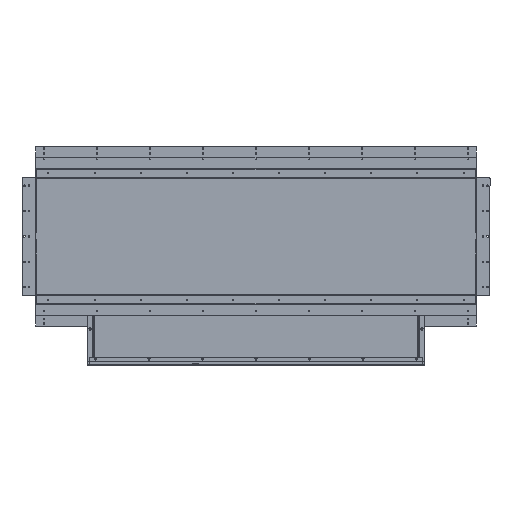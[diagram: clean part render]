
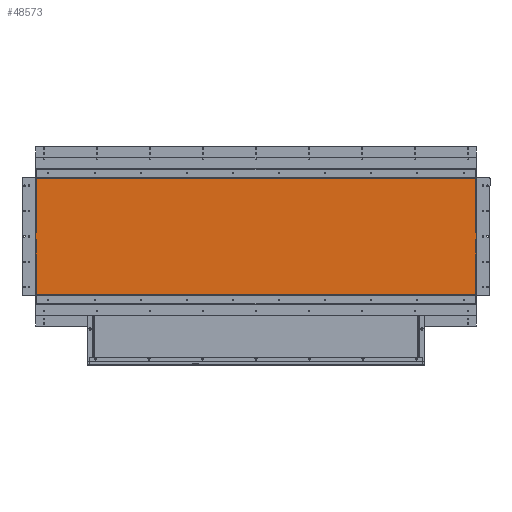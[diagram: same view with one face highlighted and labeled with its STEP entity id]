
A CAD part, front view. The second image highlights one B-rep face of the part: STEP entity #48573.
In plain terms, the highlighted planar face has unit normal (0, -1, 0) as drawn and (0, 0, -1) by its records, which use the part's own axes.
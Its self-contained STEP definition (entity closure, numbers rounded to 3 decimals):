
#477 = DIRECTION ( 'NONE',  ( 0., -1., 0. ) ) ;
#789 = VECTOR ( 'NONE', #4418, 1000. ) ;
#1685 = CARTESIAN_POINT ( 'NONE',  ( -953.5, -253., -1. ) ) ;
#2329 = AXIS2_PLACEMENT_3D ( 'NONE', #72704, #81724, #63123 ) ;
#4388 = CIRCLE ( 'NONE', #90729, 1. ) ;
#4418 = DIRECTION ( 'NONE',  ( 0., 1., 0. ) ) ;
#4594 = VECTOR ( 'NONE', #12122, 1000. ) ;
#5905 = VERTEX_POINT ( 'NONE', #93045 ) ;
#6516 = VERTEX_POINT ( 'NONE', #6585 ) ;
#6585 = CARTESIAN_POINT ( 'NONE',  ( -953.5, -15., -1. ) ) ;
#7040 = EDGE_CURVE ( 'NONE', #103428, #35055, #70513, .T. ) ;
#8951 = VECTOR ( 'NONE', #25024, 1000. ) ;
#9022 = DIRECTION ( 'NONE',  ( -1., 0., 0. ) ) ;
#10423 = EDGE_CURVE ( 'NONE', #52905, #52478, #28560, .T. ) ;
#10498 = CARTESIAN_POINT ( 'NONE',  ( 955., 15., -1. ) ) ;
#10810 = LINE ( 'NONE', #47451, #8951 ) ;
#10869 = VECTOR ( 'NONE', #11715, 1000. ) ;
#11715 = DIRECTION ( 'NONE',  ( 0., 1., 0. ) ) ;
#12122 = DIRECTION ( 'NONE',  ( 0., -1., 0. ) ) ;
#12279 = DIRECTION ( 'NONE',  ( 1., 0., 0. ) ) ;
#12759 = CARTESIAN_POINT ( 'NONE',  ( 953.5, -251., -1. ) ) ;
#13597 = ORIENTED_EDGE ( 'NONE', *, *, #69742, .F. ) ;
#14152 = CARTESIAN_POINT ( 'NONE',  ( 955., -15., -1. ) ) ;
#15907 = LINE ( 'NONE', #51974, #87766 ) ;
#18861 = CARTESIAN_POINT ( 'NONE',  ( -955., -14., -1. ) ) ;
#18862 = DIRECTION ( 'NONE',  ( -1., 0., 0. ) ) ;
#19345 = ORIENTED_EDGE ( 'NONE', *, *, #32385, .F. ) ;
#20525 = CARTESIAN_POINT ( 'NONE',  ( 953.5, -251., -1. ) ) ;
#20757 = VERTEX_POINT ( 'NONE', #68206 ) ;
#21706 = DIRECTION ( 'NONE',  ( 0., 1., 0. ) ) ;
#22835 = VERTEX_POINT ( 'NONE', #112513 ) ;
#23045 = LINE ( 'NONE', #97511, #71766 ) ;
#25024 = DIRECTION ( 'NONE',  ( -1., 0., 0. ) ) ;
#25342 = ORIENTED_EDGE ( 'NONE', *, *, #34005, .F. ) ;
#26035 = EDGE_CURVE ( 'NONE', #5905, #20757, #82737, .T. ) ;
#26119 = CARTESIAN_POINT ( 'NONE',  ( 955., -15., -1. ) ) ;
#26403 = EDGE_CURVE ( 'NONE', #45412, #63760, #76921, .T. ) ;
#27674 = CARTESIAN_POINT ( 'NONE',  ( 953.5, 251., -1. ) ) ;
#28560 = LINE ( 'NONE', #94003, #10869 ) ;
#28852 = CARTESIAN_POINT ( 'NONE',  ( 955., 15., -1. ) ) ;
#29713 = CARTESIAN_POINT ( 'NONE',  ( 956., 14., -1. ) ) ;
#29739 = CARTESIAN_POINT ( 'NONE',  ( 953.5, -15., -1. ) ) ;
#31439 = EDGE_CURVE ( 'NONE', #35055, #6516, #102650, .T. ) ;
#32385 = EDGE_CURVE ( 'NONE', #105741, #102745, #77182, .T. ) ;
#32719 = VECTOR ( 'NONE', #113895, 1000. ) ;
#34005 = EDGE_CURVE ( 'NONE', #75128, #103428, #23045, .T. ) ;
#34891 = CIRCLE ( 'NONE', #2329, 1. ) ;
#35055 = VERTEX_POINT ( 'NONE', #99595 ) ;
#35136 = EDGE_CURVE ( 'NONE', #22835, #105741, #75307, .T. ) ;
#35770 = EDGE_CURVE ( 'NONE', #45412, #75569, #94416, .T. ) ;
#35991 = CARTESIAN_POINT ( 'NONE',  ( 0., 0., -1. ) ) ;
#36237 = CARTESIAN_POINT ( 'NONE',  ( 956., 14., -1. ) ) ;
#36639 = VERTEX_POINT ( 'NONE', #98635 ) ;
#37139 = PLANE ( 'NONE',  #107789 ) ;
#40172 = DIRECTION ( 'NONE',  ( 1., 0., 0. ) ) ;
#40320 = DIRECTION ( 'NONE',  ( -1., 0., 0. ) ) ;
#44403 = ORIENTED_EDGE ( 'NONE', *, *, #111572, .F. ) ;
#44521 = AXIS2_PLACEMENT_3D ( 'NONE', #72892, #101171, #18862 ) ;
#45412 = VERTEX_POINT ( 'NONE', #12759 ) ;
#47451 = CARTESIAN_POINT ( 'NONE',  ( -953.5, 15., -1. ) ) ;
#48328 = CARTESIAN_POINT ( 'NONE',  ( -955., 14., -1. ) ) ;
#48573 = ADVANCED_FACE ( 'NONE', ( #91237 ), #37139, .T. ) ;
#49347 = VERTEX_POINT ( 'NONE', #26119 ) ;
#50239 = CARTESIAN_POINT ( 'NONE',  ( -953.5, -251., -1. ) ) ;
#51974 = CARTESIAN_POINT ( 'NONE',  ( -953.5, 251., -1. ) ) ;
#52478 = VERTEX_POINT ( 'NONE', #27674 ) ;
#52905 = VERTEX_POINT ( 'NONE', #90052 ) ;
#58950 = LINE ( 'NONE', #109632, #4594 ) ;
#61427 = EDGE_CURVE ( 'NONE', #6516, #63760, #58950, .T. ) ;
#63123 = DIRECTION ( 'NONE',  ( -1., 0., 0. ) ) ;
#63760 = VERTEX_POINT ( 'NONE', #50239 ) ;
#65985 = EDGE_CURVE ( 'NONE', #5905, #52478, #15907, .T. ) ;
#66331 = ORIENTED_EDGE ( 'NONE', *, *, #10423, .F. ) ;
#68021 = ORIENTED_EDGE ( 'NONE', *, *, #65985, .T. ) ;
#68206 = CARTESIAN_POINT ( 'NONE',  ( -953.5, 15., -1. ) ) ;
#69428 = EDGE_LOOP ( 'NONE', ( #101551, #104003, #80335, #106499, #84408, #25342, #101653, #96359, #71208, #68021, #66331, #99954, #19345, #78693, #44403, #13597 ) ) ;
#69742 = EDGE_CURVE ( 'NONE', #75569, #49347, #96452, .T. ) ;
#70513 = CIRCLE ( 'NONE', #80126, 1. ) ;
#71208 = ORIENTED_EDGE ( 'NONE', *, *, #26035, .F. ) ;
#71460 = CARTESIAN_POINT ( 'NONE',  ( -956., -14., -1. ) ) ;
#71766 = VECTOR ( 'NONE', #106493, 1000. ) ;
#72704 = CARTESIAN_POINT ( 'NONE',  ( 955., -14., -1. ) ) ;
#72706 = VECTOR ( 'NONE', #477, 1000. ) ;
#72892 = CARTESIAN_POINT ( 'NONE',  ( 955., 14., -1. ) ) ;
#74735 = EDGE_CURVE ( 'NONE', #102745, #52905, #82836, .T. ) ;
#75128 = VERTEX_POINT ( 'NONE', #80943 ) ;
#75307 = LINE ( 'NONE', #29713, #789 ) ;
#75569 = VERTEX_POINT ( 'NONE', #29739 ) ;
#75931 = DIRECTION ( 'NONE',  ( 0., 0., 1. ) ) ;
#76840 = EDGE_CURVE ( 'NONE', #36639, #75128, #4388, .T. ) ;
#76921 = LINE ( 'NONE', #20525, #111172 ) ;
#77182 = CIRCLE ( 'NONE', #44521, 1. ) ;
#78693 = ORIENTED_EDGE ( 'NONE', *, *, #35136, .F. ) ;
#78972 = DIRECTION ( 'NONE',  ( 1., 0., 0. ) ) ;
#80126 = AXIS2_PLACEMENT_3D ( 'NONE', #18861, #92156, #81316 ) ;
#80335 = ORIENTED_EDGE ( 'NONE', *, *, #61427, .F. ) ;
#80943 = CARTESIAN_POINT ( 'NONE',  ( -956., 14., -1. ) ) ;
#81316 = DIRECTION ( 'NONE',  ( -1., 0., 0. ) ) ;
#81724 = DIRECTION ( 'NONE',  ( 0., 0., 1. ) ) ;
#82737 = LINE ( 'NONE', #1685, #72706 ) ;
#82784 = DIRECTION ( 'NONE',  ( -1., 0., 0. ) ) ;
#82836 = LINE ( 'NONE', #28852, #107825 ) ;
#84408 = ORIENTED_EDGE ( 'NONE', *, *, #7040, .F. ) ;
#87766 = VECTOR ( 'NONE', #78972, 1000. ) ;
#87795 = EDGE_CURVE ( 'NONE', #20757, #36639, #10810, .T. ) ;
#90052 = CARTESIAN_POINT ( 'NONE',  ( 953.5, 15., -1. ) ) ;
#90729 = AXIS2_PLACEMENT_3D ( 'NONE', #48328, #75931, #12279 ) ;
#91237 = FACE_OUTER_BOUND ( 'NONE', #69428, .T. ) ;
#92156 = DIRECTION ( 'NONE',  ( 0., 0., 1. ) ) ;
#93045 = CARTESIAN_POINT ( 'NONE',  ( -953.5, 251., -1. ) ) ;
#94003 = CARTESIAN_POINT ( 'NONE',  ( 953.5, -253., -1. ) ) ;
#94416 = LINE ( 'NONE', #104016, #114080 ) ;
#96359 = ORIENTED_EDGE ( 'NONE', *, *, #87795, .F. ) ;
#96452 = LINE ( 'NONE', #14152, #32719 ) ;
#97511 = CARTESIAN_POINT ( 'NONE',  ( -956., 14., -1. ) ) ;
#98635 = CARTESIAN_POINT ( 'NONE',  ( -955., 15., -1. ) ) ;
#99595 = CARTESIAN_POINT ( 'NONE',  ( -955., -15., -1. ) ) ;
#99954 = ORIENTED_EDGE ( 'NONE', *, *, #74735, .F. ) ;
#101171 = DIRECTION ( 'NONE',  ( 0., 0., 1. ) ) ;
#101551 = ORIENTED_EDGE ( 'NONE', *, *, #35770, .F. ) ;
#101653 = ORIENTED_EDGE ( 'NONE', *, *, #76840, .F. ) ;
#102650 = LINE ( 'NONE', #103264, #115395 ) ;
#102745 = VERTEX_POINT ( 'NONE', #10498 ) ;
#103264 = CARTESIAN_POINT ( 'NONE',  ( -953.5, -15., -1. ) ) ;
#103428 = VERTEX_POINT ( 'NONE', #71460 ) ;
#104003 = ORIENTED_EDGE ( 'NONE', *, *, #26403, .T. ) ;
#104016 = CARTESIAN_POINT ( 'NONE',  ( 953.5, -253., -1. ) ) ;
#105741 = VERTEX_POINT ( 'NONE', #36237 ) ;
#106493 = DIRECTION ( 'NONE',  ( 0., -1., 0. ) ) ;
#106499 = ORIENTED_EDGE ( 'NONE', *, *, #31439, .F. ) ;
#107789 = AXIS2_PLACEMENT_3D ( 'NONE', #35991, #110447, #82784 ) ;
#107825 = VECTOR ( 'NONE', #9022, 1000. ) ;
#109632 = CARTESIAN_POINT ( 'NONE',  ( -953.5, -253., -1. ) ) ;
#110447 = DIRECTION ( 'NONE',  ( 0., 0., -1. ) ) ;
#111172 = VECTOR ( 'NONE', #40320, 1000. ) ;
#111572 = EDGE_CURVE ( 'NONE', #49347, #22835, #34891, .T. ) ;
#112513 = CARTESIAN_POINT ( 'NONE',  ( 956., -14., -1. ) ) ;
#113895 = DIRECTION ( 'NONE',  ( 1., 0., 0. ) ) ;
#114080 = VECTOR ( 'NONE', #21706, 1000. ) ;
#115395 = VECTOR ( 'NONE', #40172, 1000. ) ;
